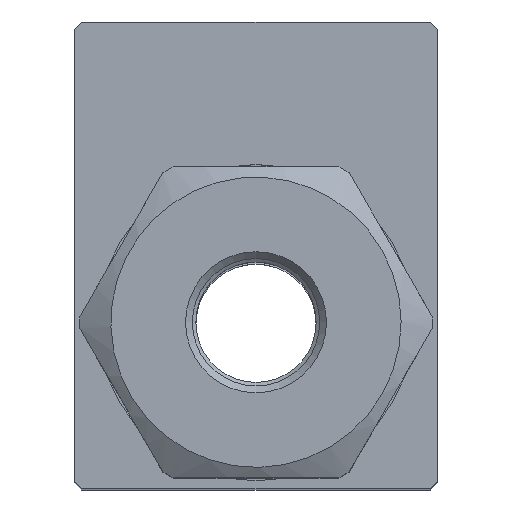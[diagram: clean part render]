
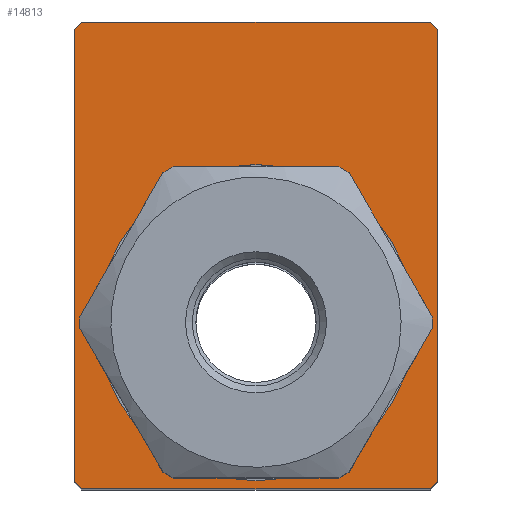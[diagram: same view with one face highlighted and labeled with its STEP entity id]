
A CAD part, top view. The second image highlights one B-rep face of the part: STEP entity #14813.
In plain terms, the highlighted planar face has unit normal (0, 0, 1).
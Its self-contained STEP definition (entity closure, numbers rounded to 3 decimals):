
#1917 = LINE ( 'NONE', #7005, #5042 ) ;
#1979 = ORIENTED_EDGE ( 'NONE', *, *, #18497, .T. ) ;
#2321 = CARTESIAN_POINT ( 'NONE',  ( 17.5, 28.3, 40.5 ) ) ;
#2372 = CARTESIAN_POINT ( 'NONE',  ( 16.8, 29., 40.5 ) ) ;
#2407 = ORIENTED_EDGE ( 'NONE', *, *, #18160, .T. ) ;
#2415 = EDGE_LOOP ( 'NONE', ( #17491, #8347, #10717, #14805, #2407, #4297, #5568, #1979 ) ) ;
#2909 = CARTESIAN_POINT ( 'NONE',  ( -17.15, -15.65, 40.5 ) ) ;
#2989 = VECTOR ( 'NONE', #9024, 1000. ) ;
#3006 = DIRECTION ( 'NONE',  ( 0.707, -0.707, 0. ) ) ;
#3721 = CARTESIAN_POINT ( 'NONE',  ( -16.8, -16., 40.5 ) ) ;
#4297 = ORIENTED_EDGE ( 'NONE', *, *, #9958, .T. ) ;
#4662 = VERTEX_POINT ( 'NONE', #16740 ) ;
#4955 = DIRECTION ( 'NONE',  ( -0.707, -0.707, 0. ) ) ;
#5042 = VECTOR ( 'NONE', #6901, 1000. ) ;
#5106 = CARTESIAN_POINT ( 'NONE',  ( -17.5, -15.3, 40.5 ) ) ;
#5484 = VERTEX_POINT ( 'NONE', #8975 ) ;
#5568 = ORIENTED_EDGE ( 'NONE', *, *, #15504, .T. ) ;
#5836 = CARTESIAN_POINT ( 'NONE',  ( -0.35, -33.15, 40.5 ) ) ;
#6052 = DIRECTION ( 'NONE',  ( 0.707, 0.707, 0. ) ) ;
#6449 = LINE ( 'NONE', #9403, #6720 ) ;
#6720 = VECTOR ( 'NONE', #9419, 1000. ) ;
#6901 = DIRECTION ( 'NONE',  ( 1., 0., 0. ) ) ;
#7005 = CARTESIAN_POINT ( 'NONE',  ( -17.5, -16., 40.5 ) ) ;
#7108 = VERTEX_POINT ( 'NONE', #19240 ) ;
#7302 = VERTEX_POINT ( 'NONE', #17335 ) ;
#7360 = DIRECTION ( 'NONE',  ( 1., 0., 0. ) ) ;
#7402 = DIRECTION ( 'NONE',  ( 0., 0., 1. ) ) ;
#7454 = CARTESIAN_POINT ( 'NONE',  ( 0., 0., 40.5 ) ) ;
#7928 = AXIS2_PLACEMENT_3D ( 'NONE', #7454, #7402, #7360 ) ;
#8347 = ORIENTED_EDGE ( 'NONE', *, *, #16878, .T. ) ;
#8481 = VERTEX_POINT ( 'NONE', #3721 ) ;
#8957 = AXIS2_PLACEMENT_3D ( 'NONE', #14360, #14332, #14305 ) ;
#8975 = CARTESIAN_POINT ( 'NONE',  ( 15.25, 0., 40.5 ) ) ;
#9024 = DIRECTION ( 'NONE',  ( 0., -1., 0. ) ) ;
#9068 = CARTESIAN_POINT ( 'NONE',  ( -17.5, 29., 40.5 ) ) ;
#9092 = CARTESIAN_POINT ( 'NONE',  ( -39.65, 6.15, 40.5 ) ) ;
#9403 = CARTESIAN_POINT ( 'NONE',  ( 17.5, 29., 40.5 ) ) ;
#9419 = DIRECTION ( 'NONE',  ( 0., 1., 0. ) ) ;
#9914 = LINE ( 'NONE', #2909, #11910 ) ;
#9958 = EDGE_CURVE ( 'NONE', #15707, #8481, #9914, .T. ) ;
#10173 = VECTOR ( 'NONE', #14216, 1000. ) ;
#10498 = FACE_BOUND ( 'NONE', #14225, .T. ) ;
#10520 = FACE_OUTER_BOUND ( 'NONE', #2415, .T. ) ;
#10717 = ORIENTED_EDGE ( 'NONE', *, *, #14818, .T. ) ;
#11435 = VERTEX_POINT ( 'NONE', #18759 ) ;
#11910 = VECTOR ( 'NONE', #3006, 1000. ) ;
#12694 = VECTOR ( 'NONE', #4955, 1000. ) ;
#12713 = LINE ( 'NONE', #9092, #12694 ) ;
#14181 = VERTEX_POINT ( 'NONE', #2321 ) ;
#14216 = DIRECTION ( 'NONE',  ( -1., 0., 0. ) ) ;
#14225 = EDGE_LOOP ( 'NONE', ( #18091 ) ) ;
#14226 = CARTESIAN_POINT ( 'NONE',  ( -17.5, 29., 40.5 ) ) ;
#14305 = DIRECTION ( 'NONE',  ( 1., 0., 0. ) ) ;
#14332 = DIRECTION ( 'NONE',  ( 0., 0., 1. ) ) ;
#14360 = CARTESIAN_POINT ( 'NONE',  ( -17.5, -16., 40.5 ) ) ;
#14521 = VERTEX_POINT ( 'NONE', #2372 ) ;
#14805 = ORIENTED_EDGE ( 'NONE', *, *, #16973, .T. ) ;
#14813 = ADVANCED_FACE ( 'NONE', ( #10498, #10520 ), #15006, .T. ) ;
#14818 = EDGE_CURVE ( 'NONE', #14521, #4662, #18558, .T. ) ;
#14894 = VECTOR ( 'NONE', #19566, 1000. ) ;
#14951 = LINE ( 'NONE', #19252, #14894 ) ;
#15006 = PLANE ( 'NONE',  #8957 ) ;
#15504 = EDGE_CURVE ( 'NONE', #8481, #7302, #1917, .T. ) ;
#15707 = VERTEX_POINT ( 'NONE', #5106 ) ;
#16413 = EDGE_CURVE ( 'NONE', #7108, #14181, #6449, .T. ) ;
#16526 = EDGE_CURVE ( 'NONE', #5484, #5484, #19902, .T. ) ;
#16740 = CARTESIAN_POINT ( 'NONE',  ( -16.8, 29., 40.5 ) ) ;
#16835 = LINE ( 'NONE', #5836, #16850 ) ;
#16850 = VECTOR ( 'NONE', #6052, 1000. ) ;
#16878 = EDGE_CURVE ( 'NONE', #14181, #14521, #14951, .T. ) ;
#16973 = EDGE_CURVE ( 'NONE', #4662, #11435, #12713, .T. ) ;
#17335 = CARTESIAN_POINT ( 'NONE',  ( 16.8, -16., 40.5 ) ) ;
#17491 = ORIENTED_EDGE ( 'NONE', *, *, #16413, .T. ) ;
#18091 = ORIENTED_EDGE ( 'NONE', *, *, #16526, .F. ) ;
#18160 = EDGE_CURVE ( 'NONE', #11435, #15707, #19083, .T. ) ;
#18497 = EDGE_CURVE ( 'NONE', #7302, #7108, #16835, .T. ) ;
#18558 = LINE ( 'NONE', #14226, #10173 ) ;
#18759 = CARTESIAN_POINT ( 'NONE',  ( -17.5, 28.3, 40.5 ) ) ;
#19083 = LINE ( 'NONE', #9068, #2989 ) ;
#19240 = CARTESIAN_POINT ( 'NONE',  ( 17.5, -15.3, 40.5 ) ) ;
#19252 = CARTESIAN_POINT ( 'NONE',  ( 22.15, 23.65, 40.5 ) ) ;
#19566 = DIRECTION ( 'NONE',  ( -0.707, 0.707, 0. ) ) ;
#19902 = CIRCLE ( 'NONE', #7928, 15.25 ) ;
